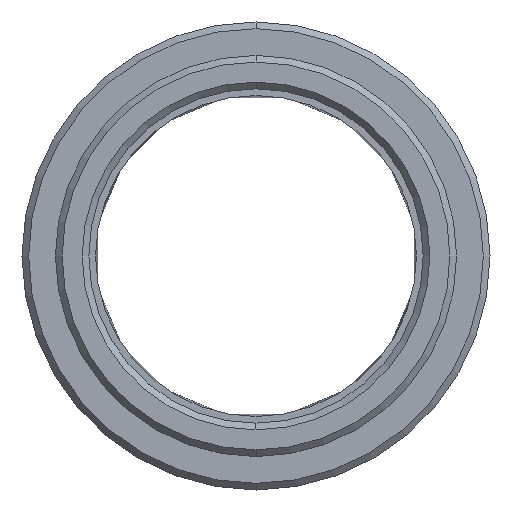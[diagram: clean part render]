
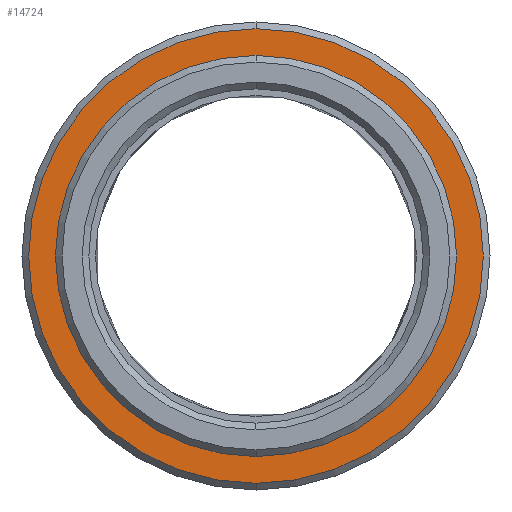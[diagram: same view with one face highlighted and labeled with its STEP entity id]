
A CAD part, left-side view. The second image highlights one B-rep face of the part: STEP entity #14724.
In plain terms, the highlighted planar face has unit normal (-1, 0, 0).
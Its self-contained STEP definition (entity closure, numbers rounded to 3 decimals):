
#5860=CARTESIAN_POINT('',(0.,0.,0.));
#5861=DIRECTION('',(1.,0.,0.));
#5862=DIRECTION('',(0.,0.,1.));
#5863=AXIS2_PLACEMENT_3D('',#5860,#5861,#5862);
#5865=CARTESIAN_POINT('',(0.,0.,0.));
#5866=DIRECTION('',(-1.,0.,0.));
#5867=DIRECTION('',(0.,0.,1.));
#5868=AXIS2_PLACEMENT_3D('',#5865,#5866,#5867);
#5870=CARTESIAN_POINT('',(0.,0.,
0.));
#5871=DIRECTION('',(1.,0.,0.));
#5872=DIRECTION('',(0.,0.,-1.));
#5873=AXIS2_PLACEMENT_3D('',#5870,#5871,#5872);
#5875=CARTESIAN_POINT('',(0.,0.,
0.));
#5876=DIRECTION('',(1.,0.,0.));
#5877=DIRECTION('',(0.,0.,1.));
#5878=AXIS2_PLACEMENT_3D('',#5875,#5876,#5877);
#11906=CARTESIAN_POINT('',(0.,0.,-17.));
#11907=CARTESIAN_POINT('',(0.,0.,17.));
#11908=VERTEX_POINT('',#11906);
#11909=VERTEX_POINT('',#11907);
#12360=CARTESIAN_POINT('',(0.,0.,15.));
#12361=CARTESIAN_POINT('',(0.,0.,-15.));
#12362=VERTEX_POINT('',#12360);
#12363=VERTEX_POINT('',#12361);
#14709=CARTESIAN_POINT('',(0.,0.,0.));
#14710=DIRECTION('',(1.,0.,0.));
#14711=DIRECTION('',(0.,0.,1.));
#14712=AXIS2_PLACEMENT_3D('',#14709,#14710,#14711);
#14713=PLANE('',#14712);
#14715=ORIENTED_EDGE('',*,*,#14714,.T.);
#14717=ORIENTED_EDGE('',*,*,#14716,.T.);
#14718=EDGE_LOOP('',(#14715,#14717));
#14719=FACE_OUTER_BOUND('',#14718,.F.);
#14720=ORIENTED_EDGE('',*,*,#14676,.F.);
#14721=ORIENTED_EDGE('',*,*,#14691,.T.);
#14722=EDGE_LOOP('',(#14720,#14721));
#14723=FACE_BOUND('',#14722,.F.);
#14724=ADVANCED_FACE('',(#14719,#14723),#14713,.F.);
#5864=CIRCLE('',#5863,15.);
#5869=CIRCLE('',#5868,15.);
#5874=CIRCLE('',#5873,17.);
#5879=CIRCLE('',#5878,17.);
#14676=EDGE_CURVE('',#12362,#12363,#5864,.T.);
#14691=EDGE_CURVE('',#12362,#12363,#5869,.T.);
#14714=EDGE_CURVE('',#11908,#11909,#5874,.T.);
#14716=EDGE_CURVE('',#11909,#11908,#5879,.T.);
